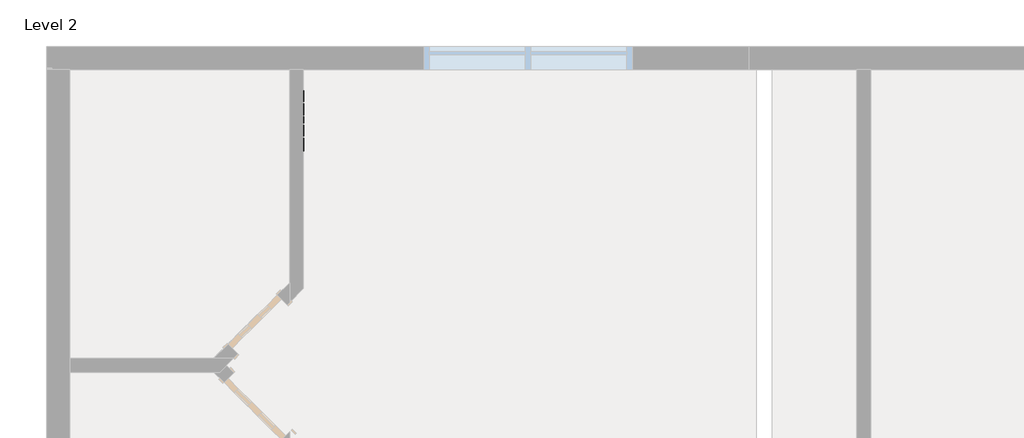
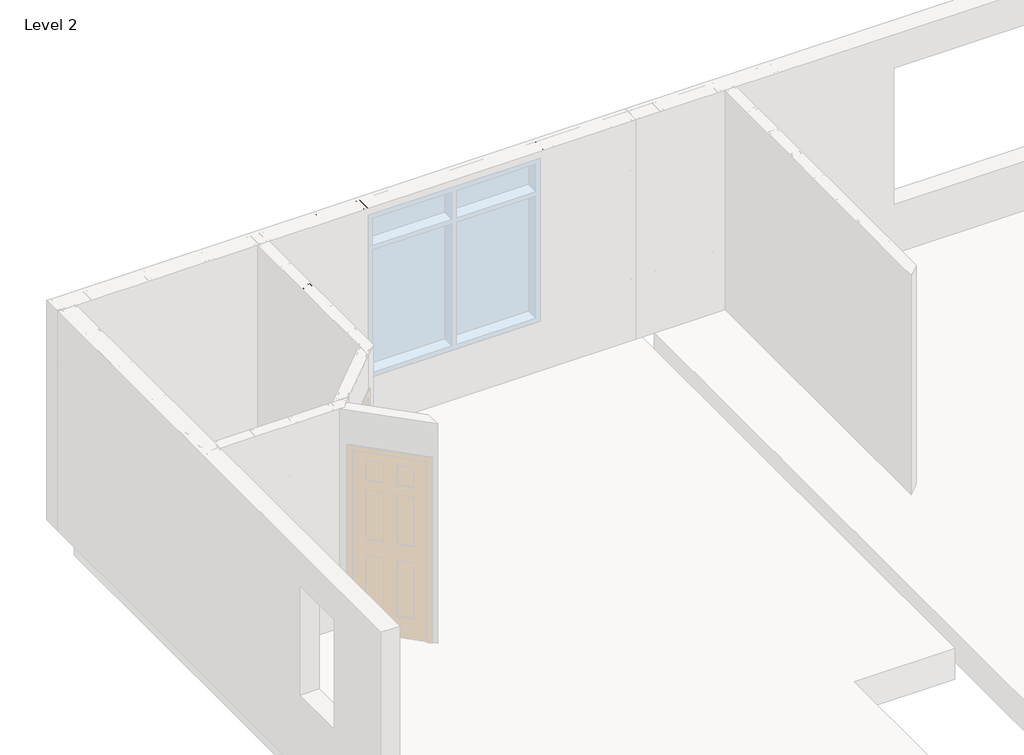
# One storey, part 36 of 46: 7 columns, 2 beams, 1 fastener.
"""IFC4 building model written with IfcOpenShell, lengths in millimetres."""

from ifc_helpers import new_model, si_unit, point, frame, origin, place, context, project, spatial, circle_curve, ellipse_curve, trimmed, transform, mapped, element, save
from ifc_brep_helpers import plane_surface, extruded_surface, advanced_brep
from components import beam_550nf150_43_0e6ccdb0, beam_550nf150_43_bc1485c3, panellabel_13f6a39c

model = new_model("IFC4")

# Units and contexts
model_context = context("Model", 3, world=origin())
ifc_project = project(units=[si_unit("LENGTHUNIT", "METRE", prefix="MILLI")], contexts=[model_context])

# Site, building, storey
site = spatial("IfcSite", under=ifc_project)
building = spatial("IfcBuilding", under=site)
storey = spatial("IfcBuildingStorey", under=building, Name="Level 2", Elevation=3060.7)

# Beams
placement = place(None, origin())
beam_550nf150_43_shape = beam_550nf150_43_0e6ccdb0(model_context)
element("IfcBeam", 1, ObjectType="BIMSF-SSMA-S : 550NF150-43", at=placement, inside=storey, context=model_context, shape_type="MappedRepresentation", body=[
    mapped(beam_550nf150_43_shape, transform((-11098.3413349, 13935.202221, 3600.45), x_axis=(1.0, 0.0, 0.0), y_axis=(0.0, 0.0, 1.0), z_axis=(0.0, -1.0, 0.0))),
])
beam_550nf150_43_2_shape = beam_550nf150_43_bc1485c3(model_context)
element("IfcBeam", 2, ObjectType="BIMSF-SSMA-S : 550NF150-43", at=placement, inside=storey, context=model_context, shape_type="MappedRepresentation", body=[
    mapped(beam_550nf150_43_2_shape, transform((-12215.9413349, 13935.202221, 3076.575), x_axis=(1.0000000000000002, 0.0, 0.0), y_axis=(0.0, 0.0, -1.0000000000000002), z_axis=(0.0, 1.0000000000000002, 0.0))),
])

# Columns
element("IfcColumn", 3, ObjectType="BIMSF-SSMA-S-Column : 350NF150-33", at=placement, inside=storey, context=model_context, shape_type="AdvancedBrep", body=[
    advanced_brep(
    [(-13168.4413349, 13071.602221, 3061.5929687), (-13079.5413349, 13071.602221, 3061.5929687), (-13079.5413349, 13033.502221, 3061.5929687), (-13085.1988507, 13033.502221, 3061.5929687), (-13085.1988507, 13034.3845367, 3061.5929687), (-13080.4236507, 13034.3845367, 3061.5929687), (-13080.4236507, 13070.7199052, 3061.5929687), (-13167.5590191, 13070.7199052, 3061.5929687), (-13167.5590191, 13034.3845367, 3061.5929687), (-13162.7838191, 13034.3845367, 3061.5929687), (-13162.7838191, 13033.502221, 3061.5929687), (-13168.4413349, 13033.502221, 3061.5929687), (-13168.4413349, 13071.602221, 5523.6070313), (-13079.5413349, 13071.602221, 5523.6070313), (-13111.2913349, 13071.602221, 3671.1929688), (-13136.6913349, 13071.602221, 3671.1929688), (-13111.2913349, 13071.602221, 4890.3929687), (-13136.6913349, 13071.602221, 4890.3929687), (-13079.5413349, 13033.502221, 5523.6070313), (-13085.1988507, 13033.502221, 5523.6070313), (-13085.1988507, 13034.3845367, 5523.6070313), (-13080.4236507, 13034.3845367, 5523.6070313), (-13080.4236507, 13070.7199052, 5523.6070313), (-13167.5590191, 13070.7199052, 5523.6070313), (-13136.6913349, 13070.7199052, 3671.1929688), (-13111.2913349, 13070.7199052, 3671.1929688), (-13136.6913349, 13070.7199052, 4890.3929687), (-13111.2913349, 13070.7199052, 4890.3929687), (-13167.5590191, 13034.3845367, 5523.6070313), (-13162.7838191, 13034.3845367, 5523.6070313), (-13162.7838191, 13033.502221, 5523.6070313), (-13168.4413349, 13033.502221, 5523.6070313)],
    [
        (0, 1),
        (1, 2),
        (2, 3),
        (3, 4),
        (4, 5),
        (5, 6),
        (6, 7),
        (7, 8),
        (8, 9),
        (9, 10),
        (10, 11),
        (11, 0),
        (0, 12),
        (12, 13),
        (13, 1),
        (14, 15, circle_curve(frame((-13123.9913349, 13071.602221, 3671.1929687), z_axis=(0.0, -1.0, 0.0), x_axis=(1.0, 0.0, 0.0)), 12.7)),
        (15, 14, circle_curve(frame((-13123.9913349, 13071.602221, 3671.1929687), z_axis=(0.0, -1.0, 0.0), x_axis=(1.0, 0.0, 0.0)), 12.7)),
        (16, 17, circle_curve(frame((-13123.9913349, 13071.602221, 4890.3929687), z_axis=(0.0, -1.0, 0.0), x_axis=(1.0, 0.0, 0.0)), 12.7)),
        (17, 16, circle_curve(frame((-13123.9913349, 13071.602221, 4890.3929687), z_axis=(0.0, -1.0, 0.0), x_axis=(1.0, 0.0, 0.0)), 12.7)),
        (13, 18),
        (18, 2),
        (18, 19),
        (19, 3),
        (19, 20),
        (20, 4),
        (20, 21),
        (21, 5),
        (21, 22),
        (22, 6),
        (22, 23),
        (23, 7),
        (24, 25, circle_curve(frame((-13123.9913349, 13070.7199052, 3671.1929688), z_axis=(0.0, 1.0, 0.0), x_axis=(1.0, 0.0, 0.0)), 12.7)),
        (25, 24, circle_curve(frame((-13123.9913349, 13070.7199052, 3671.1929688), z_axis=(0.0, 1.0, 0.0), x_axis=(1.0, 0.0, 0.0)), 12.7)),
        (26, 27, circle_curve(frame((-13123.9913349, 13070.7199052, 4890.3929687), z_axis=(0.0, 1.0, 0.0), x_axis=(1.0, 0.0, 0.0)), 12.7)),
        (27, 26, circle_curve(frame((-13123.9913349, 13070.7199052, 4890.3929687), z_axis=(0.0, 1.0, 0.0), x_axis=(1.0, 0.0, 0.0)), 12.7)),
        (23, 28),
        (28, 8),
        (28, 29),
        (29, 9),
        (29, 30),
        (30, 10),
        (30, 31),
        (31, 11),
        (31, 12),
        (24, 15),
        (14, 25),
        (26, 17),
        (16, 27),
    ],
    [
        plane_surface(frame((-13168.4413349, 13071.602221, 3061.5929687), z_axis=(0.0, 0.0, -1.0), x_axis=(0.0, 1.0, 0.0))),
        plane_surface(frame((-13079.5413349, 13071.602221, 5523.6070313), z_axis=(0.0, 1.0, 0.0), x_axis=(0.0, 0.0, -1.0))),
        plane_surface(frame((-13079.5413349, 13033.502221, 5523.6070313), z_axis=(1.0, 0.0, 0.0), x_axis=(0.0, 0.0, -1.0))),
        plane_surface(frame((-13085.1988507, 13033.502221, 5523.6070313), z_axis=(0.0, -1.0, 0.0), x_axis=(0.0, 0.0, -1.0))),
        plane_surface(frame((-13085.1988507, 13034.3845367, 5523.6070313), z_axis=(-1.0, 0.0, 0.0), x_axis=(0.0, 0.0, -1.0))),
        plane_surface(frame((-13080.4236507, 13034.3845367, 5523.6070313), z_axis=(0.0, 1.0, 0.0), x_axis=(0.0, 0.0, -1.0))),
        plane_surface(frame((-13080.4236507, 13070.7199052, 5523.6070313), z_axis=(-1.0, 0.0, 0.0), x_axis=(0.0, 0.0, -1.0))),
        plane_surface(frame((-13167.5590191, 13070.7199052, 5523.6070313), z_axis=(0.0, -1.0, 0.0), x_axis=(0.0, 0.0, -1.0))),
        plane_surface(frame((-13167.5590191, 13034.3845367, 5523.6070313), z_axis=(1.0, 0.0, 0.0), x_axis=(0.0, 0.0, -1.0))),
        plane_surface(frame((-13162.7838191, 13034.3845367, 5523.6070313), z_axis=(0.0, 1.0, 0.0), x_axis=(0.0, 0.0, -1.0))),
        plane_surface(frame((-13162.7838191, 13033.502221, 5523.6070313), z_axis=(1.0, 0.0, 0.0), x_axis=(0.0, 0.0, -1.0))),
        plane_surface(frame((-13168.4413349, 13033.502221, 5523.6070313), z_axis=(0.0, -1.0, 0.0), x_axis=(0.0, 0.0, -1.0))),
        plane_surface(frame((-13168.4413349, 13071.602221, 5523.6070313), z_axis=(-1.0, 0.0, 0.0), x_axis=(0.0, 0.0, -1.0))),
        plane_surface(frame((-13168.4413349, 13071.602221, 5523.6070313), z_axis=(0.0, 0.0, 1.0), x_axis=(0.0, -1.0, 0.0))),
        extruded_surface(trimmed(ellipse_curve(frame((-13123.9913349, 10590.5381585, 3671.1929688), z_axis=(0.0, 1.0, 0.0), x_axis=(1.0, 0.0, 0.0)), 12.7, 12.7), [point((-13136.6913349, 10590.5381585, 3671.1929688))], [point((-13111.2913349, 10590.5381585, 3671.1929688))], True, "CARTESIAN"), (0.0, -4924.028125, 0.0), 4924.028125),
        extruded_surface(trimmed(ellipse_curve(frame((-13123.9913349, 10590.5381585, 3671.1929688), z_axis=(0.0, 1.0, 0.0), x_axis=(1.0, 0.0, 0.0)), 12.7, 12.7), [point((-13111.2913349, 10590.5381585, 3671.1929688))], [point((-13136.6913349, 10590.5381585, 3671.1929688))], True, "CARTESIAN"), (0.0, -4924.028125, 0.0), 4924.028125),
        extruded_surface(trimmed(ellipse_curve(frame((-13123.9913349, 10590.5381585, 4890.3929687), z_axis=(0.0, 1.0, 0.0), x_axis=(1.0, 0.0, 0.0)), 12.7, 12.7), [point((-13136.6913349, 10590.5381585, 4890.3929687))], [point((-13111.2913349, 10590.5381585, 4890.3929687))], True, "CARTESIAN"), (0.0, -4924.028125, 0.0), 4924.028125),
        extruded_surface(trimmed(ellipse_curve(frame((-13123.9913349, 10590.5381585, 4890.3929687), z_axis=(0.0, 1.0, 0.0), x_axis=(1.0, 0.0, 0.0)), 12.7, 12.7), [point((-13111.2913349, 10590.5381585, 4890.3929687))], [point((-13136.6913349, 10590.5381585, 4890.3929687))], True, "CARTESIAN"), (0.0, -4924.028125, 0.0), 4924.028125),
    ],
    [
        (0, [[1, 2, 3, 4, 5, 6, 7, 8, 9, 10, 11, 12]]),
        (1, [[-1, 13, 14, 15], [16, 17], [18, 19]]),
        (2, [[-2, -15, 20, 21]]),
        (3, [[-3, -21, 22, 23]]),
        (4, [[-4, -23, 24, 25]]),
        (5, [[-5, -25, 26, 27]]),
        (6, [[-6, -27, 28, 29]]),
        (7, [[-7, -29, 30, 31], [32, 33], [34, 35]]),
        (8, [[-8, -31, 36, 37]]),
        (9, [[-9, -37, 38, 39]]),
        (10, [[-10, -39, 40, 41]]),
        (11, [[-11, -41, 42, 43]]),
        (12, [[-12, -43, 44, -13]]),
        (13, [[-14, -44, -42, -40, -38, -36, -30, -28, -26, -24, -22, -20]]),
        (14, [[45, -16, 46, -32]]),
        (15, [[-45, -33, -46, -17]]),
        (16, [[47, -18, 48, -34]]),
        (17, [[-47, -35, -48, -19]]),
    ],
),
])
element("IfcColumn", 4, ObjectType="BIMSF-SSMA-S-Column : 550NF150-43", at=placement, inside=storey, context=model_context, shape_type="AdvancedBrep", body=[
    advanced_brep(
    [(-12012.7413349, 14005.052221, 3061.5929687), (-12012.7413349, 13865.352221, 3061.5929687), (-12050.8413349, 13865.352221, 3061.5929687), (-12050.8413349, 13871.2771052, 3061.5929687), (-12049.6916507, 13871.2771052, 3061.5929687), (-12049.6916507, 13866.5019052, 3061.5929687), (-12013.8910191, 13866.5019052, 3061.5929687), (-12013.8910191, 14003.9025367, 3061.5929687), (-12049.6916507, 14003.9025367, 3061.5929687), (-12049.6916507, 13999.1273367, 3061.5929687), (-12050.8413349, 13999.1273367, 3061.5929687), (-12050.8413349, 14005.052221, 3061.5929687), (-12012.7413349, 14005.052221, 5523.6070313), (-12012.7413349, 13865.352221, 5523.6070313), (-12012.7413349, 13922.502221, 3671.1929688), (-12012.7413349, 13947.902221, 3671.1929688), (-12012.7413349, 13922.502221, 4890.3929687), (-12012.7413349, 13947.902221, 4890.3929687), (-12050.8413349, 13865.352221, 5523.6070313), (-12050.8413349, 13871.2771052, 5523.6070313), (-12049.6916507, 13871.2771052, 5523.6070313), (-12049.6916507, 13866.5019052, 5523.6070313), (-12013.8910191, 13866.5019052, 5523.6070313), (-12013.8910191, 14003.9025367, 5523.6070313), (-12013.8910191, 13947.902221, 3671.1929688), (-12013.8910191, 13922.502221, 3671.1929688), (-12013.8910191, 13947.902221, 4890.3929688), (-12013.8910191, 13922.502221, 4890.3929687), (-12049.6916507, 14003.9025367, 5523.6070313), (-12049.6916507, 13999.1273367, 5523.6070313), (-12050.8413349, 13999.1273367, 5523.6070313), (-12050.8413349, 14005.052221, 5523.6070313)],
    [
        (0, 1),
        (1, 2),
        (2, 3),
        (3, 4),
        (4, 5),
        (5, 6),
        (6, 7),
        (7, 8),
        (8, 9),
        (9, 10),
        (10, 11),
        (11, 0),
        (0, 12),
        (12, 13),
        (13, 1),
        (14, 15, circle_curve(frame((-12012.7413349, 13935.202221, 3671.1929688), z_axis=(-1.0, 0.0, 0.0), x_axis=(0.0, -1.0, 0.0)), 12.7)),
        (15, 14, circle_curve(frame((-12012.7413349, 13935.202221, 3671.1929688), z_axis=(-1.0, 0.0, 0.0), x_axis=(0.0, -1.0, 0.0)), 12.7)),
        (16, 17, circle_curve(frame((-12012.7413349, 13935.202221, 4890.3929687), z_axis=(-1.0, 0.0, 0.0), x_axis=(0.0, -1.0, 0.0)), 12.7)),
        (17, 16, circle_curve(frame((-12012.7413349, 13935.202221, 4890.3929687), z_axis=(-1.0, 0.0, 0.0), x_axis=(0.0, -1.0, 0.0)), 12.7)),
        (13, 18),
        (18, 2),
        (18, 19),
        (19, 3),
        (19, 20),
        (20, 4),
        (20, 21),
        (21, 5),
        (21, 22),
        (22, 6),
        (22, 23),
        (23, 7),
        (24, 25, circle_curve(frame((-12013.8910191, 13935.202221, 3671.1929688), z_axis=(1.0, 0.0, 0.0), x_axis=(0.0, -1.0, 0.0)), 12.7)),
        (25, 24, circle_curve(frame((-12013.8910191, 13935.202221, 3671.1929688), z_axis=(1.0, 0.0, 0.0), x_axis=(0.0, -1.0, 0.0)), 12.7)),
        (26, 27, circle_curve(frame((-12013.8910191, 13935.202221, 4890.3929687), z_axis=(1.0, 0.0, 0.0), x_axis=(0.0, -1.0, 0.0)), 12.7)),
        (27, 26, circle_curve(frame((-12013.8910191, 13935.202221, 4890.3929687), z_axis=(1.0, 0.0, 0.0), x_axis=(0.0, -1.0, 0.0)), 12.7)),
        (23, 28),
        (28, 8),
        (28, 29),
        (29, 9),
        (29, 30),
        (30, 10),
        (30, 31),
        (31, 11),
        (31, 12),
        (24, 15),
        (14, 25),
        (26, 17),
        (16, 27),
    ],
    [
        plane_surface(frame((-12012.7413349, 14005.052221, 3061.5929687), z_axis=(0.0, 0.0, -1.0), x_axis=(1.0, 0.0, 0.0))),
        plane_surface(frame((-12012.7413349, 13865.352221, 5523.6070313), z_axis=(1.0, 0.0, 0.0), x_axis=(0.0, 0.0, -1.0))),
        plane_surface(frame((-12050.8413349, 13865.352221, 5523.6070313), z_axis=(0.0, -1.0, 0.0), x_axis=(0.0, 0.0, -1.0))),
        plane_surface(frame((-12050.8413349, 13871.2771052, 5523.6070313), z_axis=(-1.0, 0.0, 0.0), x_axis=(0.0, 0.0, -1.0))),
        plane_surface(frame((-12049.6916507, 13871.2771052, 5523.6070313), z_axis=(0.0, 1.0, 0.0), x_axis=(0.0, 0.0, -1.0))),
        plane_surface(frame((-12049.6916507, 13866.5019052, 5523.6070313), z_axis=(1.0, 0.0, 0.0), x_axis=(0.0, 0.0, -1.0))),
        plane_surface(frame((-12013.8910191, 13866.5019052, 5523.6070313), z_axis=(0.0, 1.0, 0.0), x_axis=(0.0, 0.0, -1.0))),
        plane_surface(frame((-12013.8910191, 14003.9025367, 5523.6070313), z_axis=(-1.0, 0.0, 0.0), x_axis=(0.0, 0.0, -1.0))),
        plane_surface(frame((-12049.6916507, 14003.9025367, 5523.6070313), z_axis=(0.0, -1.0, 0.0), x_axis=(0.0, 0.0, -1.0))),
        plane_surface(frame((-12049.6916507, 13999.1273367, 5523.6070313), z_axis=(1.0, 0.0, 0.0), x_axis=(0.0, 0.0, -1.0))),
        plane_surface(frame((-12050.8413349, 13999.1273367, 5523.6070313), z_axis=(0.0, -1.0, 0.0), x_axis=(0.0, 0.0, -1.0))),
        plane_surface(frame((-12050.8413349, 14005.052221, 5523.6070313), z_axis=(-1.0, 0.0, 0.0), x_axis=(0.0, 0.0, -1.0))),
        plane_surface(frame((-12012.7413349, 14005.052221, 5523.6070313), z_axis=(0.0, 1.0, 0.0), x_axis=(0.0, 0.0, -1.0))),
        plane_surface(frame((-12012.7413349, 14005.052221, 5523.6070313), z_axis=(0.0, 0.0, 1.0), x_axis=(-1.0, 0.0, 0.0))),
        extruded_surface(trimmed(ellipse_curve(frame((-14493.8053974, 13935.202221, 3671.1929688), z_axis=(1.0, 0.0, 0.0), x_axis=(0.0, -1.0, 0.0)), 12.7, 12.7), [point((-14493.8053974, 13947.902221, 3671.1929688))], [point((-14493.8053974, 13922.502221, 3671.1929688))], True, "CARTESIAN"), (-4924.028125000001, 0.0, 0.0), 4924.028125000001),
        extruded_surface(trimmed(ellipse_curve(frame((-14493.8053974, 13935.202221, 3671.1929688), z_axis=(1.0, 0.0, 0.0), x_axis=(0.0, -1.0, 0.0)), 12.7, 12.7), [point((-14493.8053974, 13922.502221, 3671.1929688))], [point((-14493.8053974, 13947.902221, 3671.1929688))], True, "CARTESIAN"), (-4924.028125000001, 0.0, 0.0), 4924.028125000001),
        extruded_surface(trimmed(ellipse_curve(frame((-14493.8053974, 13935.202221, 4890.3929687), z_axis=(1.0, 0.0, 0.0), x_axis=(0.0, -1.0, 0.0)), 12.7, 12.7), [point((-14493.8053974, 13947.902221, 4890.3929687))], [point((-14493.8053974, 13922.502221, 4890.3929687))], True, "CARTESIAN"), (-4924.028125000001, 0.0, 0.0), 4924.028125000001),
        extruded_surface(trimmed(ellipse_curve(frame((-14493.8053974, 13935.202221, 4890.3929687), z_axis=(1.0, 0.0, 0.0), x_axis=(0.0, -1.0, 0.0)), 12.7, 12.7), [point((-14493.8053974, 13922.502221, 4890.3929687))], [point((-14493.8053974, 13947.902221, 4890.3929687))], True, "CARTESIAN"), (-4924.028125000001, 0.0, 0.0), 4924.028125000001),
    ],
    [
        (0, [[1, 2, 3, 4, 5, 6, 7, 8, 9, 10, 11, 12]]),
        (1, [[-1, 13, 14, 15], [16, 17], [18, 19]]),
        (2, [[-2, -15, 20, 21]]),
        (3, [[-3, -21, 22, 23]]),
        (4, [[-4, -23, 24, 25]]),
        (5, [[-5, -25, 26, 27]]),
        (6, [[-6, -27, 28, 29]]),
        (7, [[-7, -29, 30, 31], [32, 33], [34, 35]]),
        (8, [[-8, -31, 36, 37]]),
        (9, [[-9, -37, 38, 39]]),
        (10, [[-10, -39, 40, 41]]),
        (11, [[-11, -41, 42, 43]]),
        (12, [[-12, -43, 44, -13]]),
        (13, [[-14, -44, -42, -40, -38, -36, -30, -28, -26, -24, -22, -20]]),
        (14, [[45, -16, 46, -32]]),
        (15, [[-45, -33, -46, -17]]),
        (16, [[47, -18, 48, -34]]),
        (17, [[-47, -35, -48, -19]]),
    ],
),
])
element("IfcColumn", 5, ObjectType="BIMSF-SSMA-S-Column : 550NF150-43", at=placement, inside=storey, context=model_context, shape_type="AdvancedBrep", body=[
    advanced_brep(
    [(-10183.9413349, 13865.352221, 3061.5929687), (-10183.9413349, 14005.052221, 3061.5929687), (-10145.8413349, 14005.052221, 3061.5929687), (-10145.8413349, 13999.1273367, 3061.5929687), (-10146.9910191, 13999.1273367, 3061.5929687), (-10146.9910191, 14003.9025367, 3061.5929687), (-10182.7916507, 14003.9025367, 3061.5929687), (-10182.7916507, 13866.5019052, 3061.5929687), (-10146.9910191, 13866.5019052, 3061.5929687), (-10146.9910191, 13871.2771052, 3061.5929687), (-10145.8413349, 13871.2771052, 3061.5929687), (-10145.8413349, 13865.352221, 3061.5929687), (-10183.9413349, 13865.352221, 5523.6070313), (-10183.9413349, 14005.052221, 5523.6070313), (-10183.9413349, 13947.902221, 3671.1929688), (-10183.9413349, 13922.502221, 3671.1929688), (-10183.9413349, 13947.902221, 4890.3929687), (-10183.9413349, 13922.502221, 4890.3929687), (-10145.8413349, 14005.052221, 5523.6070313), (-10145.8413349, 13999.1273367, 5523.6070313), (-10146.9910191, 13999.1273367, 5523.6070313), (-10146.9910191, 14003.9025367, 5523.6070313), (-10182.7916507, 14003.9025367, 5523.6070313), (-10182.7916507, 13866.5019052, 5523.6070313), (-10182.7916507, 13922.502221, 3671.1929688), (-10182.7916507, 13947.902221, 3671.1929688), (-10182.7916507, 13922.502221, 4890.3929687), (-10182.7916507, 13947.902221, 4890.3929687), (-10146.9910191, 13866.5019052, 5523.6070313), (-10146.9910191, 13871.2771052, 5523.6070313), (-10145.8413349, 13871.2771052, 5523.6070313), (-10145.8413349, 13865.352221, 5523.6070313)],
    [
        (0, 1),
        (1, 2),
        (2, 3),
        (3, 4),
        (4, 5),
        (5, 6),
        (6, 7),
        (7, 8),
        (8, 9),
        (9, 10),
        (10, 11),
        (11, 0),
        (0, 12),
        (12, 13),
        (13, 1),
        (14, 15, circle_curve(frame((-10183.9413349, 13935.202221, 3671.1929688), z_axis=(1.0, 0.0, 0.0), x_axis=(0.0, 1.0, 0.0)), 12.7)),
        (15, 14, circle_curve(frame((-10183.9413349, 13935.202221, 3671.1929688), z_axis=(1.0, 0.0, 0.0), x_axis=(0.0, 1.0, 0.0)), 12.7)),
        (16, 17, circle_curve(frame((-10183.9413349, 13935.202221, 4890.3929687), z_axis=(1.0, 0.0, 0.0), x_axis=(0.0, 1.0, 0.0)), 12.7)),
        (17, 16, circle_curve(frame((-10183.9413349, 13935.202221, 4890.3929687), z_axis=(1.0, 0.0, 0.0), x_axis=(0.0, 1.0, 0.0)), 12.7)),
        (13, 18),
        (18, 2),
        (18, 19),
        (19, 3),
        (19, 20),
        (20, 4),
        (20, 21),
        (21, 5),
        (21, 22),
        (22, 6),
        (22, 23),
        (23, 7),
        (24, 25, circle_curve(frame((-10182.7916507, 13935.202221, 3671.1929687), z_axis=(-1.0, 0.0, 0.0), x_axis=(0.0, 1.0, 0.0)), 12.7)),
        (25, 24, circle_curve(frame((-10182.7916507, 13935.202221, 3671.1929687), z_axis=(-1.0, 0.0, 0.0), x_axis=(0.0, 1.0, 0.0)), 12.7)),
        (26, 27, circle_curve(frame((-10182.7916507, 13935.202221, 4890.3929687), z_axis=(-1.0, 0.0, 0.0), x_axis=(0.0, 1.0, 0.0)), 12.7)),
        (27, 26, circle_curve(frame((-10182.7916507, 13935.202221, 4890.3929687), z_axis=(-1.0, 0.0, 0.0), x_axis=(0.0, 1.0, 0.0)), 12.7)),
        (23, 28),
        (28, 8),
        (28, 29),
        (29, 9),
        (29, 30),
        (30, 10),
        (30, 31),
        (31, 11),
        (31, 12),
        (24, 15),
        (14, 25),
        (26, 17),
        (16, 27),
    ],
    [
        plane_surface(frame((-10183.9413349, 13865.352221, 3061.5929687), z_axis=(0.0, 0.0, -1.0), x_axis=(-1.0, 0.0, 0.0))),
        plane_surface(frame((-10183.9413349, 14005.052221, 5523.6070313), z_axis=(-1.0, 0.0, 0.0), x_axis=(0.0, 0.0, -1.0))),
        plane_surface(frame((-10145.8413349, 14005.052221, 5523.6070313), z_axis=(0.0, 1.0, 0.0), x_axis=(0.0, 0.0, -1.0))),
        plane_surface(frame((-10145.8413349, 13999.1273367, 5523.6070313), z_axis=(1.0, 0.0, 0.0), x_axis=(0.0, 0.0, -1.0))),
        plane_surface(frame((-10146.9910191, 13999.1273367, 5523.6070313), z_axis=(0.0, -1.0, 0.0), x_axis=(0.0, 0.0, -1.0))),
        plane_surface(frame((-10146.9910191, 14003.9025367, 5523.6070313), z_axis=(-1.0, 0.0, 0.0), x_axis=(0.0, 0.0, -1.0))),
        plane_surface(frame((-10182.7916507, 14003.9025367, 5523.6070313), z_axis=(0.0, -1.0, 0.0), x_axis=(0.0, 0.0, -1.0))),
        plane_surface(frame((-10182.7916507, 13866.5019052, 5523.6070313), z_axis=(1.0, 0.0, 0.0), x_axis=(0.0, 0.0, -1.0))),
        plane_surface(frame((-10146.9910191, 13866.5019052, 5523.6070313), z_axis=(0.0, 1.0, 0.0), x_axis=(0.0, 0.0, -1.0))),
        plane_surface(frame((-10146.9910191, 13871.2771052, 5523.6070313), z_axis=(-1.0, 0.0, 0.0), x_axis=(0.0, 0.0, -1.0))),
        plane_surface(frame((-10145.8413349, 13871.2771052, 5523.6070313), z_axis=(0.0, 1.0, 0.0), x_axis=(0.0, 0.0, -1.0))),
        plane_surface(frame((-10145.8413349, 13865.352221, 5523.6070313), z_axis=(1.0, 0.0, 0.0), x_axis=(0.0, 0.0, -1.0))),
        plane_surface(frame((-10183.9413349, 13865.352221, 5523.6070313), z_axis=(0.0, -1.0, 0.0), x_axis=(0.0, 0.0, -1.0))),
        plane_surface(frame((-10183.9413349, 13865.352221, 5523.6070313), z_axis=(0.0, 0.0, 1.0), x_axis=(1.0, 0.0, 0.0))),
        extruded_surface(trimmed(ellipse_curve(frame((-7702.8772724, 13935.202221, 3671.1929688), z_axis=(-1.0, 0.0, 0.0), x_axis=(0.0, 1.0, 0.0)), 12.7, 12.7), [point((-7702.8772724, 13922.502221, 3671.1929688))], [point((-7702.8772724, 13947.902221, 3671.1929688))], True, "CARTESIAN"), (4924.028125, 0.0, 0.0), 4924.028125),
        extruded_surface(trimmed(ellipse_curve(frame((-7702.8772724, 13935.202221, 3671.1929688), z_axis=(-1.0, 0.0, 0.0), x_axis=(0.0, 1.0, 0.0)), 12.7, 12.7), [point((-7702.8772724, 13947.902221, 3671.1929688))], [point((-7702.8772724, 13922.502221, 3671.1929688))], True, "CARTESIAN"), (4924.028125, 0.0, 0.0), 4924.028125),
        extruded_surface(trimmed(ellipse_curve(frame((-7702.8772724, 13935.202221, 4890.3929687), z_axis=(-1.0, 0.0, 0.0), x_axis=(0.0, 1.0, 0.0)), 12.7, 12.7), [point((-7702.8772724, 13922.502221, 4890.3929687))], [point((-7702.8772724, 13947.902221, 4890.3929687))], True, "CARTESIAN"), (4924.028125, 0.0, 0.0), 4924.028125),
        extruded_surface(trimmed(ellipse_curve(frame((-7702.8772724, 13935.202221, 4890.3929687), z_axis=(-1.0, 0.0, 0.0), x_axis=(0.0, 1.0, 0.0)), 12.7, 12.7), [point((-7702.8772724, 13947.902221, 4890.3929687))], [point((-7702.8772724, 13922.502221, 4890.3929687))], True, "CARTESIAN"), (4924.028125, 0.0, 0.0), 4924.028125),
    ],
    [
        (0, [[1, 2, 3, 4, 5, 6, 7, 8, 9, 10, 11, 12]]),
        (1, [[-1, 13, 14, 15], [16, 17], [18, 19]]),
        (2, [[-2, -15, 20, 21]]),
        (3, [[-3, -21, 22, 23]]),
        (4, [[-4, -23, 24, 25]]),
        (5, [[-5, -25, 26, 27]]),
        (6, [[-6, -27, 28, 29]]),
        (7, [[-7, -29, 30, 31], [32, 33], [34, 35]]),
        (8, [[-8, -31, 36, 37]]),
        (9, [[-9, -37, 38, 39]]),
        (10, [[-10, -39, 40, 41]]),
        (11, [[-11, -41, 42, 43]]),
        (12, [[-12, -43, 44, -13]]),
        (13, [[-14, -44, -42, -40, -38, -36, -30, -28, -26, -24, -22, -20]]),
        (14, [[45, -16, 46, -32]]),
        (15, [[-45, -33, -46, -17]]),
        (16, [[47, -18, 48, -34]]),
        (17, [[-47, -35, -48, -19]]),
    ],
),
])
element("IfcColumn", 6, ObjectType="BIMSF-SSMA-S-Column : 550NF150-43", at=placement, inside=storey, context=model_context, shape_type="AdvancedBrep", body=[
    advanced_brep(
    [(-12510.7202411, 13865.352221, 3061.5929687), (-12510.7202411, 14005.052221, 3061.5929687), (-12472.6202411, 14005.052221, 3061.5929687), (-12472.6202411, 13999.1273367, 3061.5929687), (-12473.7699253, 13999.1273367, 3061.5929687), (-12473.7699253, 14003.9025367, 3061.5929687), (-12509.5705569, 14003.9025367, 3061.5929687), (-12509.5705569, 13866.5019052, 3061.5929687), (-12473.7699253, 13866.5019052, 3061.5929687), (-12473.7699253, 13871.2771052, 3061.5929687), (-12472.6202411, 13871.2771052, 3061.5929687), (-12472.6202411, 13865.352221, 3061.5929687), (-12510.7202411, 13865.352221, 5523.6070313), (-12510.7202411, 14005.052221, 5523.6070313), (-12510.7202411, 13947.902221, 3671.1929688), (-12510.7202411, 13922.502221, 3671.1929688), (-12510.7202411, 13947.902221, 4890.3929687), (-12510.7202411, 13922.502221, 4890.3929687), (-12472.6202411, 14005.052221, 5523.6070313), (-12472.6202411, 13999.1273367, 5523.6070313), (-12473.7699253, 13999.1273367, 5523.6070313), (-12473.7699253, 14003.9025367, 5523.6070313), (-12509.5705569, 14003.9025367, 5523.6070313), (-12509.5705569, 13866.5019052, 5523.6070313), (-12509.5705569, 13922.502221, 3671.1929688), (-12509.5705569, 13947.902221, 3671.1929688), (-12509.5705569, 13922.502221, 4890.3929687), (-12509.5705569, 13947.902221, 4890.3929687), (-12473.7699253, 13866.5019052, 5523.6070313), (-12473.7699253, 13871.2771052, 5523.6070313), (-12472.6202411, 13871.2771052, 5523.6070313), (-12472.6202411, 13865.352221, 5523.6070313)],
    [
        (0, 1),
        (1, 2),
        (2, 3),
        (3, 4),
        (4, 5),
        (5, 6),
        (6, 7),
        (7, 8),
        (8, 9),
        (9, 10),
        (10, 11),
        (11, 0),
        (0, 12),
        (12, 13),
        (13, 1),
        (14, 15, circle_curve(frame((-12510.7202411, 13935.202221, 3671.1929687), z_axis=(1.0, 0.0, 0.0), x_axis=(0.0, 1.0, 0.0)), 12.7)),
        (15, 14, circle_curve(frame((-12510.7202411, 13935.202221, 3671.1929687), z_axis=(1.0, 0.0, 0.0), x_axis=(0.0, 1.0, 0.0)), 12.7)),
        (16, 17, circle_curve(frame((-12510.7202411, 13935.202221, 4890.3929687), z_axis=(1.0, 0.0, 0.0), x_axis=(0.0, 1.0, 0.0)), 12.7)),
        (17, 16, circle_curve(frame((-12510.7202411, 13935.202221, 4890.3929687), z_axis=(1.0, 0.0, 0.0), x_axis=(0.0, 1.0, 0.0)), 12.7)),
        (13, 18),
        (18, 2),
        (18, 19),
        (19, 3),
        (19, 20),
        (20, 4),
        (20, 21),
        (21, 5),
        (21, 22),
        (22, 6),
        (22, 23),
        (23, 7),
        (24, 25, circle_curve(frame((-12509.5705569, 13935.202221, 3671.1929687), z_axis=(-1.0, 0.0, 0.0), x_axis=(0.0, 1.0, 0.0)), 12.7)),
        (25, 24, circle_curve(frame((-12509.5705569, 13935.202221, 3671.1929687), z_axis=(-1.0, 0.0, 0.0), x_axis=(0.0, 1.0, 0.0)), 12.7)),
        (26, 27, circle_curve(frame((-12509.5705569, 13935.202221, 4890.3929687), z_axis=(-1.0, 0.0, 0.0), x_axis=(0.0, 1.0, 0.0)), 12.7)),
        (27, 26, circle_curve(frame((-12509.5705569, 13935.202221, 4890.3929687), z_axis=(-1.0, 0.0, 0.0), x_axis=(0.0, 1.0, 0.0)), 12.7)),
        (23, 28),
        (28, 8),
        (28, 29),
        (29, 9),
        (29, 30),
        (30, 10),
        (30, 31),
        (31, 11),
        (31, 12),
        (24, 15),
        (14, 25),
        (26, 17),
        (16, 27),
    ],
    [
        plane_surface(frame((-12510.7202411, 13865.352221, 3061.5929687), z_axis=(0.0, 0.0, -1.0), x_axis=(-1.0, 0.0, 0.0))),
        plane_surface(frame((-12510.7202411, 14005.052221, 5523.6070313), z_axis=(-1.0, 0.0, 0.0), x_axis=(0.0, 0.0, -1.0))),
        plane_surface(frame((-12472.6202411, 14005.052221, 5523.6070313), z_axis=(0.0, 1.0, 0.0), x_axis=(0.0, 0.0, -1.0))),
        plane_surface(frame((-12472.6202411, 13999.1273367, 5523.6070313), z_axis=(1.0, 0.0, 0.0), x_axis=(0.0, 0.0, -1.0))),
        plane_surface(frame((-12473.7699253, 13999.1273367, 5523.6070313), z_axis=(0.0, -1.0, 0.0), x_axis=(0.0, 0.0, -1.0))),
        plane_surface(frame((-12473.7699253, 14003.9025367, 5523.6070313), z_axis=(-1.0, 0.0, 0.0), x_axis=(0.0, 0.0, -1.0))),
        plane_surface(frame((-12509.5705569, 14003.9025367, 5523.6070313), z_axis=(0.0, -1.0, 0.0), x_axis=(0.0, 0.0, -1.0))),
        plane_surface(frame((-12509.5705569, 13866.5019052, 5523.6070313), z_axis=(1.0, 0.0, 0.0), x_axis=(0.0, 0.0, -1.0))),
        plane_surface(frame((-12473.7699253, 13866.5019052, 5523.6070313), z_axis=(0.0, 1.0, 0.0), x_axis=(0.0, 0.0, -1.0))),
        plane_surface(frame((-12473.7699253, 13871.2771052, 5523.6070313), z_axis=(-1.0, 0.0, 0.0), x_axis=(0.0, 0.0, -1.0))),
        plane_surface(frame((-12472.6202411, 13871.2771052, 5523.6070313), z_axis=(0.0, 1.0, 0.0), x_axis=(0.0, 0.0, -1.0))),
        plane_surface(frame((-12472.6202411, 13865.352221, 5523.6070313), z_axis=(1.0, 0.0, 0.0), x_axis=(0.0, 0.0, -1.0))),
        plane_surface(frame((-12510.7202411, 13865.352221, 5523.6070313), z_axis=(0.0, -1.0, 0.0), x_axis=(0.0, 0.0, -1.0))),
        plane_surface(frame((-12510.7202411, 13865.352221, 5523.6070313), z_axis=(0.0, 0.0, 1.0), x_axis=(1.0, 0.0, 0.0))),
        extruded_surface(trimmed(ellipse_curve(frame((-10029.6561786, 13935.202221, 3671.1929688), z_axis=(-1.0, 0.0, 0.0), x_axis=(0.0, 1.0, 0.0)), 12.7, 12.7), [point((-10029.6561786, 13922.502221, 3671.1929688))], [point((-10029.6561786, 13947.902221, 3671.1929688))], True, "CARTESIAN"), (4924.028125, 0.0, 0.0), 4924.028125),
        extruded_surface(trimmed(ellipse_curve(frame((-10029.6561786, 13935.202221, 3671.1929688), z_axis=(-1.0, 0.0, 0.0), x_axis=(0.0, 1.0, 0.0)), 12.7, 12.7), [point((-10029.6561786, 13947.902221, 3671.1929688))], [point((-10029.6561786, 13922.502221, 3671.1929688))], True, "CARTESIAN"), (4924.028125, 0.0, 0.0), 4924.028125),
        extruded_surface(trimmed(ellipse_curve(frame((-10029.6561786, 13935.202221, 4890.3929687), z_axis=(-1.0, 0.0, 0.0), x_axis=(0.0, 1.0, 0.0)), 12.7, 12.7), [point((-10029.6561786, 13922.502221, 4890.3929687))], [point((-10029.6561786, 13947.902221, 4890.3929687))], True, "CARTESIAN"), (4924.028125, 0.0, 0.0), 4924.028125),
        extruded_surface(trimmed(ellipse_curve(frame((-10029.6561786, 13935.202221, 4890.3929687), z_axis=(-1.0, 0.0, 0.0), x_axis=(0.0, 1.0, 0.0)), 12.7, 12.7), [point((-10029.6561786, 13947.902221, 4890.3929687))], [point((-10029.6561786, 13922.502221, 4890.3929687))], True, "CARTESIAN"), (4924.028125, 0.0, 0.0), 4924.028125),
    ],
    [
        (0, [[1, 2, 3, 4, 5, 6, 7, 8, 9, 10, 11, 12]]),
        (1, [[-1, 13, 14, 15], [16, 17], [18, 19]]),
        (2, [[-2, -15, 20, 21]]),
        (3, [[-3, -21, 22, 23]]),
        (4, [[-4, -23, 24, 25]]),
        (5, [[-5, -25, 26, 27]]),
        (6, [[-6, -27, 28, 29]]),
        (7, [[-7, -29, 30, 31], [32, 33], [34, 35]]),
        (8, [[-8, -31, 36, 37]]),
        (9, [[-9, -37, 38, 39]]),
        (10, [[-10, -39, 40, 41]]),
        (11, [[-11, -41, 42, 43]]),
        (12, [[-12, -43, 44, -13]]),
        (13, [[-14, -44, -42, -40, -38, -36, -30, -28, -26, -24, -22, -20]]),
        (14, [[45, -16, 46, -32]]),
        (15, [[-45, -33, -46, -17]]),
        (16, [[47, -18, 48, -34]]),
        (17, [[-47, -35, -48, -19]]),
    ],
),
])
element("IfcColumn", 7, ObjectType="BIMSF-SSMA-S-Column : 550NF150-43", at=placement, inside=storey, context=model_context, shape_type="AdvancedBrep", body=[
    advanced_brep(
    [(-11901.1202411, 13865.352221, 3061.5929687), (-11901.1202411, 14005.052221, 3061.5929687), (-11863.0202411, 14005.052221, 3061.5929687), (-11863.0202411, 13999.1273367, 3061.5929687), (-11864.1699253, 13999.1273367, 3061.5929687), (-11864.1699253, 14003.9025367, 3061.5929687), (-11899.9705569, 14003.9025367, 3061.5929687), (-11899.9705569, 13866.5019052, 3061.5929687), (-11864.1699253, 13866.5019052, 3061.5929687), (-11864.1699253, 13871.2771052, 3061.5929687), (-11863.0202411, 13871.2771052, 3061.5929687), (-11863.0202411, 13865.352221, 3061.5929687), (-11901.1202411, 13865.352221, 3615.4320313), (-11901.1202411, 14005.052221, 3615.4320313), (-11901.1202411, 13947.902221, 3366.3929687), (-11901.1202411, 13922.502221, 3366.3929687), (-11863.0202411, 14005.052221, 3615.4320313), (-11863.0202411, 13999.1273367, 3615.4320313), (-11864.1699253, 13999.1273367, 3615.4320313), (-11864.1699253, 14003.9025367, 3615.4320313), (-11899.9705569, 14003.9025367, 3615.4320313), (-11899.9705569, 13866.5019052, 3615.4320313), (-11899.9705569, 13922.502221, 3366.3929687), (-11899.9705569, 13947.902221, 3366.3929687), (-11864.1699253, 13866.5019052, 3615.4320313), (-11864.1699253, 13871.2771052, 3615.4320313), (-11863.0202411, 13871.2771052, 3615.4320313), (-11863.0202411, 13865.352221, 3615.4320313)],
    [
        (0, 1),
        (1, 2),
        (2, 3),
        (3, 4),
        (4, 5),
        (5, 6),
        (6, 7),
        (7, 8),
        (8, 9),
        (9, 10),
        (10, 11),
        (11, 0),
        (0, 12),
        (12, 13),
        (13, 1),
        (14, 15, circle_curve(frame((-11901.1202411, 13935.202221, 3366.3929688), z_axis=(1.0, 0.0, 0.0), x_axis=(0.0, 1.0, 0.0)), 12.7)),
        (15, 14, circle_curve(frame((-11901.1202411, 13935.202221, 3366.3929688), z_axis=(1.0, 0.0, 0.0), x_axis=(0.0, 1.0, 0.0)), 12.7)),
        (13, 16),
        (16, 2),
        (16, 17),
        (17, 3),
        (17, 18),
        (18, 4),
        (18, 19),
        (19, 5),
        (19, 20),
        (20, 6),
        (20, 21),
        (21, 7),
        (22, 23, circle_curve(frame((-11899.9705569, 13935.202221, 3366.3929687), z_axis=(-1.0, 0.0, 0.0), x_axis=(0.0, 1.0, 0.0)), 12.7)),
        (23, 22, circle_curve(frame((-11899.9705569, 13935.202221, 3366.3929687), z_axis=(-1.0, 0.0, 0.0), x_axis=(0.0, 1.0, 0.0)), 12.7)),
        (21, 24),
        (24, 8),
        (24, 25),
        (25, 9),
        (25, 26),
        (26, 10),
        (26, 27),
        (27, 11),
        (27, 12),
        (22, 15),
        (14, 23),
    ],
    [
        plane_surface(frame((-11901.1202411, 13865.352221, 3061.5929687), z_axis=(0.0, 0.0, -1.0), x_axis=(-1.0, 0.0, 0.0))),
        plane_surface(frame((-11901.1202411, 14005.052221, 3615.4320313), z_axis=(-1.0, 0.0, 0.0), x_axis=(0.0, 0.0, -1.0))),
        plane_surface(frame((-11863.0202411, 14005.052221, 3615.4320313), z_axis=(0.0, 1.0, 0.0), x_axis=(0.0, 0.0, -1.0))),
        plane_surface(frame((-11863.0202411, 13999.1273367, 3615.4320313), z_axis=(1.0, 0.0, 0.0), x_axis=(0.0, 0.0, -1.0))),
        plane_surface(frame((-11864.1699253, 13999.1273367, 3615.4320313), z_axis=(0.0, -1.0, 0.0), x_axis=(0.0, 0.0, -1.0))),
        plane_surface(frame((-11864.1699253, 14003.9025367, 3615.4320313), z_axis=(-1.0, 0.0, 0.0), x_axis=(0.0, 0.0, -1.0))),
        plane_surface(frame((-11899.9705569, 14003.9025367, 3615.4320313), z_axis=(0.0, -1.0, 0.0), x_axis=(0.0, 0.0, -1.0))),
        plane_surface(frame((-11899.9705569, 13866.5019052, 3615.4320313), z_axis=(1.0, 0.0, 0.0), x_axis=(0.0, 0.0, -1.0))),
        plane_surface(frame((-11864.1699253, 13866.5019052, 3615.4320313), z_axis=(0.0, 1.0, 0.0), x_axis=(0.0, 0.0, -1.0))),
        plane_surface(frame((-11864.1699253, 13871.2771052, 3615.4320313), z_axis=(-1.0, 0.0, 0.0), x_axis=(0.0, 0.0, -1.0))),
        plane_surface(frame((-11863.0202411, 13871.2771052, 3615.4320313), z_axis=(0.0, 1.0, 0.0), x_axis=(0.0, 0.0, -1.0))),
        plane_surface(frame((-11863.0202411, 13865.352221, 3615.4320313), z_axis=(1.0, 0.0, 0.0), x_axis=(0.0, 0.0, -1.0))),
        plane_surface(frame((-11901.1202411, 13865.352221, 3615.4320313), z_axis=(0.0, -1.0, 0.0), x_axis=(0.0, 0.0, -1.0))),
        plane_surface(frame((-11901.1202411, 13865.352221, 3615.4320313), z_axis=(0.0, 0.0, 1.0), x_axis=(1.0, 0.0, 0.0))),
        extruded_surface(trimmed(ellipse_curve(frame((-11328.2311786, 13935.202221, 3366.3929687), z_axis=(-1.0, 0.0, 0.0), x_axis=(0.0, 1.0, 0.0)), 12.7, 12.7), [point((-11328.2311786, 13922.502221, 3366.3929687))], [point((-11328.2311786, 13947.902221, 3366.3929687))], True, "CARTESIAN"), (1107.6781249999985, 0.0, 0.0), 1107.6781249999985),
        extruded_surface(trimmed(ellipse_curve(frame((-11328.2311786, 13935.202221, 3366.3929687), z_axis=(-1.0, 0.0, 0.0), x_axis=(0.0, 1.0, 0.0)), 12.7, 12.7), [point((-11328.2311786, 13947.902221, 3366.3929687))], [point((-11328.2311786, 13922.502221, 3366.3929687))], True, "CARTESIAN"), (1107.6781249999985, 0.0, 0.0), 1107.6781249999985),
    ],
    [
        (0, [[1, 2, 3, 4, 5, 6, 7, 8, 9, 10, 11, 12]]),
        (1, [[-1, 13, 14, 15], [16, 17]]),
        (2, [[-2, -15, 18, 19]]),
        (3, [[-3, -19, 20, 21]]),
        (4, [[-4, -21, 22, 23]]),
        (5, [[-5, -23, 24, 25]]),
        (6, [[-6, -25, 26, 27]]),
        (7, [[-7, -27, 28, 29], [30, 31]]),
        (8, [[-8, -29, 32, 33]]),
        (9, [[-9, -33, 34, 35]]),
        (10, [[-10, -35, 36, 37]]),
        (11, [[-11, -37, 38, 39]]),
        (12, [[-12, -39, 40, -13]]),
        (13, [[-14, -40, -38, -36, -34, -32, -28, -26, -24, -22, -20, -18]]),
        (14, [[41, -16, 42, -30]]),
        (15, [[-41, -31, -42, -17]]),
    ],
),
])
element("IfcColumn", 8, ObjectType="BIMSF-SSMA-S-Column : 550NF150-43", at=placement, inside=storey, context=model_context, shape_type="AdvancedBrep", body=[
    advanced_brep(
    [(-11291.5202411, 13865.352221, 3061.5929687), (-11291.5202411, 14005.052221, 3061.5929687), (-11253.4202411, 14005.052221, 3061.5929687), (-11253.4202411, 13999.1273367, 3061.5929687), (-11254.5699253, 13999.1273367, 3061.5929687), (-11254.5699253, 14003.9025367, 3061.5929687), (-11290.3705569, 14003.9025367, 3061.5929687), (-11290.3705569, 13866.5019052, 3061.5929687), (-11254.5699253, 13866.5019052, 3061.5929687), (-11254.5699253, 13871.2771052, 3061.5929687), (-11253.4202411, 13871.2771052, 3061.5929687), (-11253.4202411, 13865.352221, 3061.5929687), (-11291.5202411, 13865.352221, 3615.4320313), (-11291.5202411, 14005.052221, 3615.4320313), (-11291.5202411, 13947.902221, 3366.3929687), (-11291.5202411, 13922.502221, 3366.3929687), (-11253.4202411, 14005.052221, 3615.4320313), (-11253.4202411, 13999.1273367, 3615.4320313), (-11254.5699253, 13999.1273367, 3615.4320313), (-11254.5699253, 14003.9025367, 3615.4320313), (-11290.3705569, 14003.9025367, 3615.4320313), (-11290.3705569, 13866.5019052, 3615.4320313), (-11290.3705569, 13922.502221, 3366.3929687), (-11290.3705569, 13947.902221, 3366.3929687), (-11254.5699253, 13866.5019052, 3615.4320313), (-11254.5699253, 13871.2771052, 3615.4320313), (-11253.4202411, 13871.2771052, 3615.4320313), (-11253.4202411, 13865.352221, 3615.4320313)],
    [
        (0, 1),
        (1, 2),
        (2, 3),
        (3, 4),
        (4, 5),
        (5, 6),
        (6, 7),
        (7, 8),
        (8, 9),
        (9, 10),
        (10, 11),
        (11, 0),
        (0, 12),
        (12, 13),
        (13, 1),
        (14, 15, circle_curve(frame((-11291.5202411, 13935.202221, 3366.3929688), z_axis=(1.0, 0.0, 0.0), x_axis=(0.0, 1.0, 0.0)), 12.7)),
        (15, 14, circle_curve(frame((-11291.5202411, 13935.202221, 3366.3929688), z_axis=(1.0, 0.0, 0.0), x_axis=(0.0, 1.0, 0.0)), 12.7)),
        (13, 16),
        (16, 2),
        (16, 17),
        (17, 3),
        (17, 18),
        (18, 4),
        (18, 19),
        (19, 5),
        (19, 20),
        (20, 6),
        (20, 21),
        (21, 7),
        (22, 23, circle_curve(frame((-11290.3705569, 13935.202221, 3366.3929687), z_axis=(-1.0, 0.0, 0.0), x_axis=(0.0, 1.0, 0.0)), 12.7)),
        (23, 22, circle_curve(frame((-11290.3705569, 13935.202221, 3366.3929687), z_axis=(-1.0, 0.0, 0.0), x_axis=(0.0, 1.0, 0.0)), 12.7)),
        (21, 24),
        (24, 8),
        (24, 25),
        (25, 9),
        (25, 26),
        (26, 10),
        (26, 27),
        (27, 11),
        (27, 12),
        (22, 15),
        (14, 23),
    ],
    [
        plane_surface(frame((-11291.5202411, 13865.352221, 3061.5929687), z_axis=(0.0, 0.0, -1.0), x_axis=(-1.0, 0.0, 0.0))),
        plane_surface(frame((-11291.5202411, 14005.052221, 3615.4320313), z_axis=(-1.0, 0.0, 0.0), x_axis=(0.0, 0.0, -1.0))),
        plane_surface(frame((-11253.4202411, 14005.052221, 3615.4320313), z_axis=(0.0, 1.0, 0.0), x_axis=(0.0, 0.0, -1.0))),
        plane_surface(frame((-11253.4202411, 13999.1273367, 3615.4320313), z_axis=(1.0, 0.0, 0.0), x_axis=(0.0, 0.0, -1.0))),
        plane_surface(frame((-11254.5699253, 13999.1273367, 3615.4320313), z_axis=(0.0, -1.0, 0.0), x_axis=(0.0, 0.0, -1.0))),
        plane_surface(frame((-11254.5699253, 14003.9025367, 3615.4320313), z_axis=(-1.0, 0.0, 0.0), x_axis=(0.0, 0.0, -1.0))),
        plane_surface(frame((-11290.3705569, 14003.9025367, 3615.4320313), z_axis=(0.0, -1.0, 0.0), x_axis=(0.0, 0.0, -1.0))),
        plane_surface(frame((-11290.3705569, 13866.5019052, 3615.4320313), z_axis=(1.0, 0.0, 0.0), x_axis=(0.0, 0.0, -1.0))),
        plane_surface(frame((-11254.5699253, 13866.5019052, 3615.4320313), z_axis=(0.0, 1.0, 0.0), x_axis=(0.0, 0.0, -1.0))),
        plane_surface(frame((-11254.5699253, 13871.2771052, 3615.4320313), z_axis=(-1.0, 0.0, 0.0), x_axis=(0.0, 0.0, -1.0))),
        plane_surface(frame((-11253.4202411, 13871.2771052, 3615.4320313), z_axis=(0.0, 1.0, 0.0), x_axis=(0.0, 0.0, -1.0))),
        plane_surface(frame((-11253.4202411, 13865.352221, 3615.4320313), z_axis=(1.0, 0.0, 0.0), x_axis=(0.0, 0.0, -1.0))),
        plane_surface(frame((-11291.5202411, 13865.352221, 3615.4320313), z_axis=(0.0, -1.0, 0.0), x_axis=(0.0, 0.0, -1.0))),
        plane_surface(frame((-11291.5202411, 13865.352221, 3615.4320313), z_axis=(0.0, 0.0, 1.0), x_axis=(1.0, 0.0, 0.0))),
        extruded_surface(trimmed(ellipse_curve(frame((-10718.6311786, 13935.202221, 3366.3929687), z_axis=(-1.0, 0.0, 0.0), x_axis=(0.0, 1.0, 0.0)), 12.7, 12.7), [point((-10718.6311786, 13922.502221, 3366.3929687))], [point((-10718.6311786, 13947.902221, 3366.3929687))], True, "CARTESIAN"), (1107.6781250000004, 0.0, 0.0), 1107.6781250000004),
        extruded_surface(trimmed(ellipse_curve(frame((-10718.6311786, 13935.202221, 3366.3929687), z_axis=(-1.0, 0.0, 0.0), x_axis=(0.0, 1.0, 0.0)), 12.7, 12.7), [point((-10718.6311786, 13947.902221, 3366.3929687))], [point((-10718.6311786, 13922.502221, 3366.3929687))], True, "CARTESIAN"), (1107.6781250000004, 0.0, 0.0), 1107.6781250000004),
    ],
    [
        (0, [[1, 2, 3, 4, 5, 6, 7, 8, 9, 10, 11, 12]]),
        (1, [[-1, 13, 14, 15], [16, 17]]),
        (2, [[-2, -15, 18, 19]]),
        (3, [[-3, -19, 20, 21]]),
        (4, [[-4, -21, 22, 23]]),
        (5, [[-5, -23, 24, 25]]),
        (6, [[-6, -25, 26, 27]]),
        (7, [[-7, -27, 28, 29], [30, 31]]),
        (8, [[-8, -29, 32, 33]]),
        (9, [[-9, -33, 34, 35]]),
        (10, [[-10, -35, 36, 37]]),
        (11, [[-11, -37, 38, 39]]),
        (12, [[-12, -39, 40, -13]]),
        (13, [[-14, -40, -38, -36, -34, -32, -28, -26, -24, -22, -20, -18]]),
        (14, [[41, -16, 42, -30]]),
        (15, [[-41, -31, -42, -17]]),
    ],
),
])
element("IfcColumn", 9, ObjectType="BIMSF-SSMA-S-Column : 550NF150-43", at=placement, inside=storey, context=model_context, shape_type="AdvancedBrep", body=[
    advanced_brep(
    [(-10681.9202411, 13865.352221, 3061.5929687), (-10681.9202411, 14005.052221, 3061.5929687), (-10643.8202411, 14005.052221, 3061.5929687), (-10643.8202411, 13999.1273367, 3061.5929687), (-10644.9699253, 13999.1273367, 3061.5929687), (-10644.9699253, 14003.9025367, 3061.5929687), (-10680.7705569, 14003.9025367, 3061.5929687), (-10680.7705569, 13866.5019052, 3061.5929687), (-10644.9699253, 13866.5019052, 3061.5929687), (-10644.9699253, 13871.2771052, 3061.5929687), (-10643.8202411, 13871.2771052, 3061.5929687), (-10643.8202411, 13865.352221, 3061.5929687), (-10681.9202411, 13865.352221, 3615.4320313), (-10681.9202411, 14005.052221, 3615.4320313), (-10681.9202411, 13947.902221, 3366.3929687), (-10681.9202411, 13922.502221, 3366.3929687), (-10643.8202411, 14005.052221, 3615.4320313), (-10643.8202411, 13999.1273367, 3615.4320313), (-10644.9699253, 13999.1273367, 3615.4320313), (-10644.9699253, 14003.9025367, 3615.4320313), (-10680.7705569, 14003.9025367, 3615.4320313), (-10680.7705569, 13866.5019052, 3615.4320313), (-10680.7705569, 13922.502221, 3366.3929687), (-10680.7705569, 13947.902221, 3366.3929687), (-10644.9699253, 13866.5019052, 3615.4320313), (-10644.9699253, 13871.2771052, 3615.4320313), (-10643.8202411, 13871.2771052, 3615.4320313), (-10643.8202411, 13865.352221, 3615.4320313)],
    [
        (0, 1),
        (1, 2),
        (2, 3),
        (3, 4),
        (4, 5),
        (5, 6),
        (6, 7),
        (7, 8),
        (8, 9),
        (9, 10),
        (10, 11),
        (11, 0),
        (0, 12),
        (12, 13),
        (13, 1),
        (14, 15, circle_curve(frame((-10681.9202411, 13935.202221, 3366.3929688), z_axis=(1.0, 0.0, 0.0), x_axis=(0.0, 1.0, 0.0)), 12.7)),
        (15, 14, circle_curve(frame((-10681.9202411, 13935.202221, 3366.3929688), z_axis=(1.0, 0.0, 0.0), x_axis=(0.0, 1.0, 0.0)), 12.7)),
        (13, 16),
        (16, 2),
        (16, 17),
        (17, 3),
        (17, 18),
        (18, 4),
        (18, 19),
        (19, 5),
        (19, 20),
        (20, 6),
        (20, 21),
        (21, 7),
        (22, 23, circle_curve(frame((-10680.7705569, 13935.202221, 3366.3929687), z_axis=(-1.0, 0.0, 0.0), x_axis=(0.0, 1.0, 0.0)), 12.7)),
        (23, 22, circle_curve(frame((-10680.7705569, 13935.202221, 3366.3929687), z_axis=(-1.0, 0.0, 0.0), x_axis=(0.0, 1.0, 0.0)), 12.7)),
        (21, 24),
        (24, 8),
        (24, 25),
        (25, 9),
        (25, 26),
        (26, 10),
        (26, 27),
        (27, 11),
        (27, 12),
        (22, 15),
        (14, 23),
    ],
    [
        plane_surface(frame((-10681.9202411, 13865.352221, 3061.5929687), z_axis=(0.0, 0.0, -1.0), x_axis=(-1.0, 0.0, 0.0))),
        plane_surface(frame((-10681.9202411, 14005.052221, 3615.4320313), z_axis=(-1.0, 0.0, 0.0), x_axis=(0.0, 0.0, -1.0))),
        plane_surface(frame((-10643.8202411, 14005.052221, 3615.4320313), z_axis=(0.0, 1.0, 0.0), x_axis=(0.0, 0.0, -1.0))),
        plane_surface(frame((-10643.8202411, 13999.1273367, 3615.4320313), z_axis=(1.0, 0.0, 0.0), x_axis=(0.0, 0.0, -1.0))),
        plane_surface(frame((-10644.9699253, 13999.1273367, 3615.4320313), z_axis=(0.0, -1.0, 0.0), x_axis=(0.0, 0.0, -1.0))),
        plane_surface(frame((-10644.9699253, 14003.9025367, 3615.4320313), z_axis=(-1.0, 0.0, 0.0), x_axis=(0.0, 0.0, -1.0))),
        plane_surface(frame((-10680.7705569, 14003.9025367, 3615.4320313), z_axis=(0.0, -1.0, 0.0), x_axis=(0.0, 0.0, -1.0))),
        plane_surface(frame((-10680.7705569, 13866.5019052, 3615.4320313), z_axis=(1.0, 0.0, 0.0), x_axis=(0.0, 0.0, -1.0))),
        plane_surface(frame((-10644.9699253, 13866.5019052, 3615.4320313), z_axis=(0.0, 1.0, 0.0), x_axis=(0.0, 0.0, -1.0))),
        plane_surface(frame((-10644.9699253, 13871.2771052, 3615.4320313), z_axis=(-1.0, 0.0, 0.0), x_axis=(0.0, 0.0, -1.0))),
        plane_surface(frame((-10643.8202411, 13871.2771052, 3615.4320313), z_axis=(0.0, 1.0, 0.0), x_axis=(0.0, 0.0, -1.0))),
        plane_surface(frame((-10643.8202411, 13865.352221, 3615.4320313), z_axis=(1.0, 0.0, 0.0), x_axis=(0.0, 0.0, -1.0))),
        plane_surface(frame((-10681.9202411, 13865.352221, 3615.4320313), z_axis=(0.0, -1.0, 0.0), x_axis=(0.0, 0.0, -1.0))),
        plane_surface(frame((-10681.9202411, 13865.352221, 3615.4320313), z_axis=(0.0, 0.0, 1.0), x_axis=(1.0, 0.0, 0.0))),
        extruded_surface(trimmed(ellipse_curve(frame((-10109.0311786, 13935.202221, 3366.3929687), z_axis=(-1.0, 0.0, 0.0), x_axis=(0.0, 1.0, 0.0)), 12.7, 12.7), [point((-10109.0311786, 13922.502221, 3366.3929687))], [point((-10109.0311786, 13947.902221, 3366.3929687))], True, "CARTESIAN"), (1107.6781250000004, 0.0, 0.0), 1107.6781250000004),
        extruded_surface(trimmed(ellipse_curve(frame((-10109.0311786, 13935.202221, 3366.3929687), z_axis=(-1.0, 0.0, 0.0), x_axis=(0.0, 1.0, 0.0)), 12.7, 12.7), [point((-10109.0311786, 13947.902221, 3366.3929687))], [point((-10109.0311786, 13922.502221, 3366.3929687))], True, "CARTESIAN"), (1107.6781250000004, 0.0, 0.0), 1107.6781250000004),
    ],
    [
        (0, [[1, 2, 3, 4, 5, 6, 7, 8, 9, 10, 11, 12]]),
        (1, [[-1, 13, 14, 15], [16, 17]]),
        (2, [[-2, -15, 18, 19]]),
        (3, [[-3, -19, 20, 21]]),
        (4, [[-4, -21, 22, 23]]),
        (5, [[-5, -23, 24, 25]]),
        (6, [[-6, -25, 26, 27]]),
        (7, [[-7, -27, 28, 29], [30, 31]]),
        (8, [[-8, -29, 32, 33]]),
        (9, [[-9, -33, 34, 35]]),
        (10, [[-10, -35, 36, 37]]),
        (11, [[-11, -37, 38, 39]]),
        (12, [[-12, -39, 40, -13]]),
        (13, [[-14, -40, -38, -36, -34, -32, -28, -26, -24, -22, -20, -18]]),
        (14, [[41, -16, 42, -30]]),
        (15, [[-41, -31, -42, -17]]),
    ],
),
])

# Fastener
panellabel_shape = panellabel_13f6a39c(model_context)
element("IfcFastener", 10, ObjectType="PanelLabel : Miranda", at=placement, inside=storey, context=model_context, shape_type="MappedRepresentation", body=[
    mapped(panellabel_shape, transform((-13123.9913349, 13400.0306292, 2289.9077702), x_axis=(0.0, -1.0, 0.0), y_axis=(1.0, 0.0, 0.0), z_axis=(0.0, 0.0, 1.0))),
])

save(model, "model.ifc")
